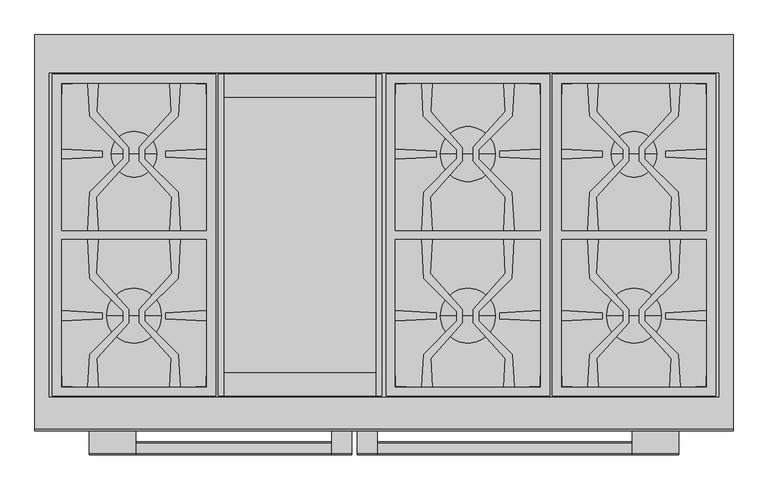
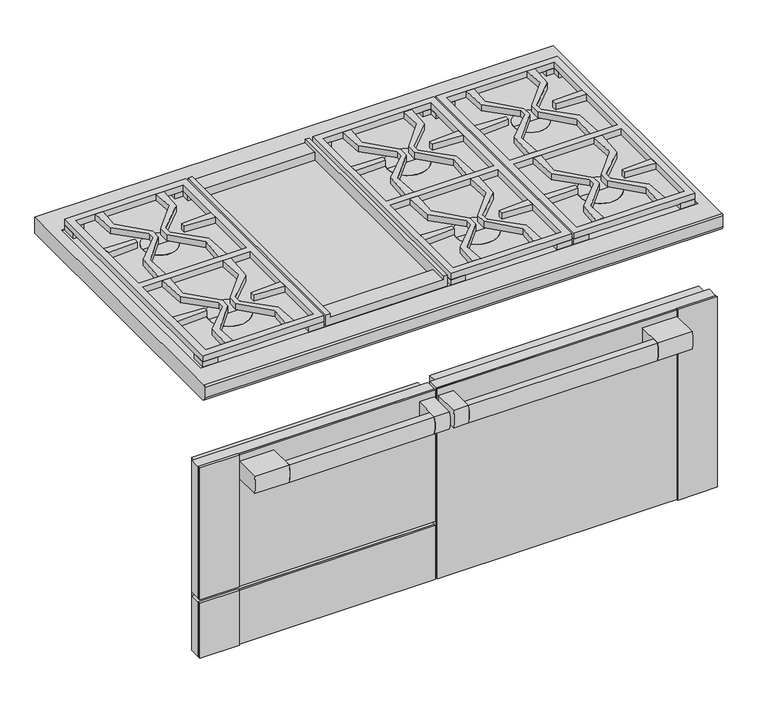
"""IFC4 building model written with IfcOpenShell, lengths in millimetres: proxy geometry, 11791690_USA_HR1955-3G_EDST-CLST : 25195581_USA_11791690_HR1955-3G_EDST-CLST."""

from ifc_helpers import new_model, si_unit, point, frame, frame_2d, origin, place, context, project, spatial, polyline, circle_curve, trimmed, segment, composite_curve, outline, extrude, faceted_brep, source, transform, mapped, element, save
from ifc_brep_helpers import plane_surface, cylinder_surface, advanced_brep


def specialty_equipment_83a5bb5f(model_context):
    return source(origin(), model_context, "Body", "SolidModel", [
        faceted_brep([(608.5, -664.7, 684.0), (608.5, -664.7, 210.0), (515.5, -664.7, 210.0), (515.5, -664.7, 211.0), (607.5, -664.7, 211.0), (607.5, -664.7, 683.0), (515.5, -664.7, 683.0), (515.5, -664.7, 684.0), (608.5, -670.0, 684.0), (515.5, -670.0, 684.0), (515.5, -670.0, 210.0), (608.5, -670.0, 210.0), (515.5, -668.7, 683.0), (515.5, -668.7, 211.0), (607.5, -668.7, 683.0), (607.5, -668.7, 211.0)], [[[0, 1, 2, 3, 4, 5, 6, 7]], [[8, 9, 10, 11]], [[1, 0, 8, 11]], [[2, 1, 11, 10]], [[10, 9, 7, 6, 12, 13, 3, 2]], [[0, 7, 9, 8]], [[14, 15, 13, 12]], [[15, 14, 5, 4]], [[13, 15, 4, 3]], [[14, 12, 6, 5]]]),
        extrude(outline(polyline([(-48.5, -664.7), (607.5, -664.7), (607.5, -668.7), (-48.5, -668.7), (-48.5, -664.7)])), frame((0.0, 0.0, 211.0), z_axis=(0.0, 0.0, 1.0), x_axis=(1.0, 0.0, 0.0)), (0.0, 0.0, 1.0), 472.0),
        faceted_brep([(-515.5, -664.7, 355.0), (-608.5, -664.7, 355.0), (-608.5, -664.7, 684.0), (-515.5, -664.7, 684.0), (-515.5, -664.7, 683.0), (-607.5, -664.7, 683.0), (-607.5, -664.7, 356.0), (-515.5, -664.7, 356.0), (-515.5, -670.0, 684.0), (-608.5, -670.0, 684.0), (-608.5, -670.0, 355.0), (-515.5, -670.0, 355.0), (-515.5, -668.7, 356.0), (-515.5, -668.7, 683.0), (-607.5, -668.7, 356.0), (-607.5, -668.7, 683.0)], [[[0, 1, 2, 3, 4, 5, 6, 7]], [[8, 9, 10, 11]], [[8, 11, 0, 7, 12, 13, 4, 3]], [[1, 0, 11, 10]], [[2, 1, 10, 9]], [[3, 2, 9, 8]], [[12, 14, 15, 13]], [[14, 12, 7, 6]], [[15, 14, 6, 5]], [[13, 15, 5, 4]]]),
        extrude(outline(polyline([(-607.5, -664.7), (-53.5, -664.7), (-53.5, -668.7), (-607.5, -668.7), (-607.5, -664.7)])), frame((0.0, 0.0, 356.0), z_axis=(0.0, 0.0, 1.0), x_axis=(1.0, 0.0, 0.0)), (0.0, 0.0, 1.0), 327.0),
        faceted_brep([(-515.5, -664.7, 210.0), (-608.5, -664.7, 210.0), (-608.5, -664.7, 347.0), (-515.5, -664.7, 347.0), (-515.5, -664.7, 346.0), (-607.5, -664.7, 346.0), (-607.5, -664.7, 211.0), (-515.5, -664.7, 211.0), (-515.5, -670.0, 347.0), (-608.5, -670.0, 347.0), (-608.5, -670.0, 210.0), (-515.5, -670.0, 210.0), (-515.5, -668.7, 211.0), (-515.5, -668.7, 346.0), (-607.5, -668.7, 211.0), (-607.5, -668.7, 346.0)], [[[0, 1, 2, 3, 4, 5, 6, 7]], [[8, 9, 10, 11]], [[8, 11, 0, 7, 12, 13, 4, 3]], [[1, 0, 11, 10]], [[2, 1, 10, 9]], [[3, 2, 9, 8]], [[12, 14, 15, 13]], [[14, 12, 7, 6]], [[15, 14, 6, 5]], [[13, 15, 5, 4]]]),
        extrude(outline(polyline([(-607.5, -664.7), (-53.5, -664.7), (-53.5, -668.7), (-607.5, -668.7), (-607.5, -664.7)])), frame((0.0, 0.0, 211.0), z_axis=(0.0, 0.0, 1.0), x_axis=(1.0, 0.0, 0.0)), (0.0, 0.0, 1.0), 135.0),
        extrude(outline(polyline([(-608.5, -638.0), (-53.5, -638.0), (-53.5, -664.7), (-608.5, -664.7), (-608.5, -638.0)])), frame((0.0, 0.0, 356.0), z_axis=(0.0, 0.0, 1.0), x_axis=(1.0, 0.0, 0.0)), (0.0, 0.0, 1.0), 327.0),
        extrude(outline(polyline([(-48.5, -638.0), (608.5, -638.0), (608.5, -664.7), (-48.5, -664.7), (-48.5, -638.0)])), frame((0.0, 0.0, 211.0), z_axis=(0.0, 0.0, 1.0), x_axis=(1.0, 0.0, 0.0)), (0.0, 0.0, 1.0), 472.0),
        extrude(outline(polyline([(-608.5, -638.0), (-53.5, -638.0), (-53.5, -664.7), (-608.5, -664.7), (-608.5, -638.0)])), frame((0.0, 0.0, 211.0), z_axis=(0.0, 0.0, 1.0), x_axis=(1.0, 0.0, 0.0)), (0.0, 0.0, 1.0), 135.0),
        extrude(outline(polyline([(-36.5, -617.0), (596.5, -617.0), (596.5, -638.0), (-36.5, -638.0), (-36.5, -617.0)])), frame((0.0, 0.0, 218.0), z_axis=(0.0, 0.0, 1.0), x_axis=(1.0, 0.0, 0.0)), (0.0, 0.0, 1.0), 464.0),
        extrude(outline(polyline([(-596.5, -617.0), (-65.5, -617.0), (-65.5, -638.0), (-596.5, -638.0), (-596.5, -617.0)])), frame((0.0, 0.0, 359.0), z_axis=(0.0, 0.0, 1.0), x_axis=(1.0, 0.0, 0.0)), (0.0, 0.0, 1.0), 315.0),
        extrude(outline(polyline([(-596.5, -617.0), (-65.5, -617.0), (-65.5, -638.0), (-596.5, -638.0), (-596.5, -617.0)])), frame((0.0, 0.0, 211.5), z_axis=(0.0, 0.0, 1.0), x_axis=(1.0, 0.0, 0.0)), (0.0, 0.0, 1.0), 134.0),
        extrude(outline(composite_curve([segment(polyline([(-668.7, 667.0), (-668.7, 624.0), (-731.0, 624.0)]), True, "CONTINUOUS"), segment(trimmed(circle_curve(frame_2d((-655.4583333, 645.5)), 78.5416667), [point((-731.0, 624.0))], [point((-731.0, 667.0))], False, "CARTESIAN"), True, "CONTINUOUS"), segment(polyline([(-731.0, 667.0), (-668.7, 667.0)]), True, "CONTINUOUS")], self_intersect=False)), frame((-514.5, 0.0, 0.0), z_axis=(1.0, 0.0, 0.0), x_axis=(0.0, 1.0, 0.0)), (0.0, 0.0, 1.0), 81.0),
        extrude(outline(composite_curve([segment(polyline([(-731.0, 667.0), (-668.7, 667.0), (-668.7, 624.0), (-731.0, 624.0)]), True, "CONTINUOUS"), segment(trimmed(circle_curve(frame_2d((-655.4583333, 645.5)), 78.5416667), [point((-731.0, 624.0))], [point((-731.0, 667.0))], False, "CARTESIAN"), True, "CONTINUOUS")], self_intersect=False)), frame((433.5, 0.0, 0.0), z_axis=(1.0, 0.0, 0.0), x_axis=(0.0, 1.0, 0.0)), (0.0, 0.0, 1.0), 81.0),
        extrude(outline(composite_curve([segment(polyline([(-731.0, 667.0), (-668.7, 667.0), (-668.7, 624.0), (-731.0, 624.0)]), True, "CONTINUOUS"), segment(trimmed(circle_curve(frame_2d((-655.4583333, 645.5)), 78.5416667), [point((-731.0, 624.0))], [point((-731.0, 667.0))], False, "CARTESIAN"), True, "CONTINUOUS")], self_intersect=False)), frame((-91.5, 0.0, 0.0), z_axis=(1.0, 0.0, 0.0), x_axis=(0.0, 1.0, 0.0)), (0.0, 0.0, 1.0), 35.0),
        extrude(outline(composite_curve([segment(polyline([(-731.0, 667.0), (-668.7, 667.0), (-668.7, 624.0), (-731.0, 624.0)]), True, "CONTINUOUS"), segment(trimmed(circle_curve(frame_2d((-655.4583333, 645.5)), 78.5416667), [point((-731.0, 624.0))], [point((-731.0, 667.0))], False, "CARTESIAN"), True, "CONTINUOUS")], self_intersect=False)), frame((-46.5, 0.0, 0.0), z_axis=(1.0, 0.0, 0.0), x_axis=(0.0, 1.0, 0.0)), (0.0, 0.0, 1.0), 35.0),
        extrude(outline(composite_curve([segment(trimmed(circle_curve(frame_2d((-655.4583333, 645.5)), 78.5416667), [point((-731.0, 624.0))], [point((-731.0, 667.0))], False, "CARTESIAN"), True, "CONTINUOUS"), segment(polyline([(-731.0, 667.0), (-714.0, 667.0)]), True, "CONTINUOUS"), segment(trimmed(circle_curve(frame_2d((-789.5416667, 645.5)), 78.5416667), [point((-714.0, 667.0))], [point((-714.0, 624.0))], False, "CARTESIAN"), True, "CONTINUOUS"), segment(polyline([(-714.0, 624.0), (-731.0, 624.0)]), True, "CONTINUOUS")], self_intersect=False)), frame((-433.5, 0.0, 0.0), z_axis=(1.0, 0.0, 0.0), x_axis=(0.0, 1.0, 0.0)), (0.0, 0.0, 1.0), 342.0),
        extrude(outline(composite_curve([segment(trimmed(circle_curve(frame_2d((-655.4583333, 645.5)), 78.5416667), [point((-731.0, 624.0))], [point((-731.0, 667.0))], False, "CARTESIAN"), True, "CONTINUOUS"), segment(polyline([(-731.0, 667.0), (-714.0, 667.0)]), True, "CONTINUOUS"), segment(trimmed(circle_curve(frame_2d((-789.5416667, 645.5)), 78.5416667), [point((-714.0, 667.0))], [point((-714.0, 624.0))], False, "CARTESIAN"), True, "CONTINUOUS"), segment(polyline([(-714.0, 624.0), (-731.0, 624.0)]), True, "CONTINUOUS")], self_intersect=False)), frame((-11.5, 0.0, 0.0), z_axis=(1.0, 0.0, 0.0), x_axis=(0.0, 1.0, 0.0)), (0.0, 0.0, 1.0), 445.0),
        advanced_brep(
        [(609.5, 0.0, 902.0), (609.5, -688.3499547, 902.0), (609.5, -692.0, 898.3499547), (609.5, -692.0, 872.0), (609.5, -682.0, 862.0), (609.5, 0.0, 862.0), (-609.5, 0.0, 902.0), (-609.5, 0.0, 862.0), (-609.5, -682.0, 862.0), (-609.5, -692.0, 872.0), (-609.5, -692.0, 898.3499547), (-609.5, -688.3499547, 902.0), (-584.5, -67.0, 902.0), (584.5, -67.0, 902.0), (584.5, -633.0, 902.0), (-584.5, -633.0, 902.0), (584.5, -67.0, 870.0), (-584.5, -67.0, 870.0), (-584.5, -633.0, 870.0), (584.5, -633.0, 870.0)],
        [
            (0, 1),
            (1, 2, circle_curve(frame((609.5, -688.0, 898.0), z_axis=(1.0, 0.0, 0.0), x_axis=(0.0, 0.0, 1.0)), 4.0152794)),
            (2, 3),
            (3, 4, circle_curve(frame((609.5, -682.0, 872.0), z_axis=(1.0, 0.0, 0.0), x_axis=(0.0, 0.0, 1.0)), 10.0)),
            (4, 5),
            (5, 0),
            (6, 7),
            (7, 8),
            (8, 9, circle_curve(frame((-609.5, -682.0, 872.0), z_axis=(-1.0, 0.0, 0.0), x_axis=(0.0, 0.0, 1.0)), 10.0)),
            (9, 10),
            (10, 11, circle_curve(frame((-609.5, -688.0, 898.0), z_axis=(-1.0, 0.0, 0.0), x_axis=(0.0, 0.0, 1.0)), 4.0152794)),
            (11, 6),
            (0, 6),
            (11, 1),
            (12, 13),
            (13, 14),
            (14, 15),
            (15, 12),
            (10, 2),
            (9, 3),
            (8, 4),
            (7, 5),
            (16, 17),
            (17, 18),
            (18, 19),
            (19, 16),
            (16, 13),
            (12, 17),
            (15, 18),
            (14, 19),
        ],
        [
            plane_surface(frame((609.5, -688.3499547, 902.0), z_axis=(1.0, 0.0, 0.0), x_axis=(0.0, -1.0, 0.0))),
            plane_surface(frame((-609.5, -688.3499547, 902.0), z_axis=(-1.0, 0.0, 0.0), x_axis=(0.0, 1.0, 0.0))),
            plane_surface(frame((609.5, 0.0, 902.0), z_axis=(0.0, 0.0, 1.0), x_axis=(-1.0, 0.0, 0.0))),
            cylinder_surface(frame((-609.5, -688.0, 898.0), z_axis=(1.0, 0.0, 0.0), x_axis=(0.0, 0.0, 1.0)), 4.0152794),
            plane_surface(frame((609.5, -692.0, 898.3499547), z_axis=(0.0, -1.0, 0.0), x_axis=(-1.0, 0.0, 0.0))),
            cylinder_surface(frame((-609.5, -682.0, 872.0), z_axis=(1.0, 0.0, 0.0), x_axis=(0.0, 0.0, 1.0)), 10.0),
            plane_surface(frame((609.5, -682.0, 862.0), z_axis=(0.0, 0.0, -1.0), x_axis=(-1.0, 0.0, 0.0))),
            plane_surface(frame((609.5, 0.0, 862.0), z_axis=(0.0, 1.0, 0.0), x_axis=(-1.0, 0.0, 0.0))),
            plane_surface(frame((-584.5, -67.0, 870.0), z_axis=(0.0, 0.0, 1.0), x_axis=(1.0, 0.0, 0.0))),
            plane_surface(frame((584.5, -67.0, 902.0), z_axis=(0.0, -1.0, 0.0), x_axis=(0.0, 0.0, -1.0))),
            plane_surface(frame((-584.5, -67.0, 902.0), z_axis=(1.0, 0.0, 0.0), x_axis=(0.0, 0.0, -1.0))),
            plane_surface(frame((-584.5, -633.0, 902.0), z_axis=(0.0, 1.0, 0.0), x_axis=(0.0, 0.0, -1.0))),
            plane_surface(frame((584.5, -633.0, 902.0), z_axis=(-1.0, 0.0, 0.0), x_axis=(0.0, 0.0, -1.0))),
        ],
        [
            (0, [[1, 2, 3, 4, 5, 6]]),
            (1, [[7, 8, 9, 10, 11, 12]]),
            (2, [[-1, 13, -12, 14], [15, 16, 17, 18]]),
            (3, [[-2, -14, -11, 19]]),
            (4, [[-3, -19, -10, 20]]),
            (5, [[-4, -20, -9, 21]]),
            (6, [[-5, -21, -8, 22]]),
            (7, [[-6, -22, -7, -13]]),
            (8, [[23, 24, 25, 26]]),
            (9, [[-23, 27, -15, 28]]),
            (10, [[-24, -28, -18, 29]]),
            (11, [[-25, -29, -17, 30]]),
            (12, [[-26, -30, -16, -27]]),
        ],
    ),
        advanced_brep(
        [(98.5, -491.0, 887.0), (194.5, -491.0, 887.0), (194.5, -491.0, 901.0), (98.5, -491.0, 901.0), (146.5, -491.0, 887.0), (146.5, -491.0, 901.0)],
        [
            (0, 1, circle_curve(frame((146.5, -491.0, 887.0), z_axis=(0.0, 0.0, 1.0), x_axis=(1.0, 0.0, 0.0)), 48.0)),
            (1, 2),
            (2, 3, circle_curve(frame((146.5, -491.0, 901.0), z_axis=(0.0, 0.0, -1.0), x_axis=(1.0, 0.0, 0.0)), 48.0)),
            (3, 0),
            (1, 0, circle_curve(frame((146.5, -491.0, 887.0), z_axis=(0.0, 0.0, 1.0), x_axis=(1.0, 0.0, 0.0)), 48.0)),
            (3, 2, circle_curve(frame((146.5, -491.0, 901.0), z_axis=(0.0, 0.0, -1.0), x_axis=(1.0, 0.0, 0.0)), 48.0)),
            (4, 1),
            (0, 4),
            (2, 5),
            (5, 3),
        ],
        [
            cylinder_surface(frame((146.5, -491.0, 2424.4), z_axis=(0.0, 0.0, -1.0), x_axis=(1.0, 0.0, 0.0)), 48.0),
            plane_surface(frame((146.5, -491.0, 887.0), z_axis=(0.0, 0.0, -1.0), x_axis=(1.0, 0.0, 0.0))),
            plane_surface(frame((146.5, -491.0, 901.0), z_axis=(0.0, 0.0, 1.0), x_axis=(1.0, 0.0, 0.0))),
        ],
        [
            (0, [[1, 2, 3, 4]]),
            (0, [[5, -4, 6, -2]]),
            (1, [[7, -1, 8]]),
            (1, [[-8, -5, -7]]),
            (2, [[-3, 9, 10]]),
            (2, [[-6, -10, -9]]),
        ],
    ),
        advanced_brep(
        [(98.5, -208.5, 887.0), (194.5, -208.5, 887.0), (194.5, -208.5, 901.0), (98.5, -208.5, 901.0), (146.5, -208.5, 887.0), (146.5, -208.5, 901.0)],
        [
            (0, 1, circle_curve(frame((146.5, -208.5, 887.0), z_axis=(0.0, 0.0, 1.0), x_axis=(1.0, 0.0, 0.0)), 48.0)),
            (1, 2),
            (2, 3, circle_curve(frame((146.5, -208.5, 901.0), z_axis=(0.0, 0.0, -1.0), x_axis=(1.0, 0.0, 0.0)), 48.0)),
            (3, 0),
            (1, 0, circle_curve(frame((146.5, -208.5, 887.0), z_axis=(0.0, 0.0, 1.0), x_axis=(1.0, 0.0, 0.0)), 48.0)),
            (3, 2, circle_curve(frame((146.5, -208.5, 901.0), z_axis=(0.0, 0.0, -1.0), x_axis=(1.0, 0.0, 0.0)), 48.0)),
            (4, 1),
            (0, 4),
            (2, 5),
            (5, 3),
        ],
        [
            cylinder_surface(frame((146.5, -208.5, 2338.4), z_axis=(0.0, 0.0, -1.0), x_axis=(1.0, 0.0, 0.0)), 48.0),
            plane_surface(frame((146.5, -208.5, 887.0), z_axis=(0.0, 0.0, -1.0), x_axis=(1.0, 0.0, 0.0))),
            plane_surface(frame((146.5, -208.5, 901.0), z_axis=(0.0, 0.0, 1.0), x_axis=(1.0, 0.0, 0.0))),
        ],
        [
            (0, [[1, 2, 3, 4]]),
            (0, [[5, -4, 6, -2]]),
            (1, [[7, -1, 8]]),
            (1, [[-8, -5, -7]]),
            (2, [[-3, 9, 10]]),
            (2, [[-6, -10, -9]]),
        ],
    ),
        extrude(outline(polyline([(289.0, -631.0), (254.0, -631.0), (254.0, -615.0), (273.0337834, -615.0), (273.0337834, -596.0), (289.0, -596.0), (289.0, -631.0)])), frame((0.0, 0.0, 887.0), z_axis=(0.0, 0.0, 1.0), x_axis=(1.0, 0.0, 0.0)), (0.0, 0.0, 1.0), 27.0),
        extrude(outline(polyline([(4.0, -631.0), (4.0, -596.0), (20.0337834, -596.0), (20.0337834, -615.0), (39.0, -615.0), (39.0, -631.0), (4.0, -631.0)])), frame((0.0, 0.0, 887.0), z_axis=(0.0, 0.0, 1.0), x_axis=(1.0, 0.0, 0.0)), (0.0, 0.0, 1.0), 27.0),
        extrude(outline(polyline([(289.0, -69.0), (289.0, -104.0), (273.0337834, -104.0), (273.0337834, -85.0), (254.0, -85.0), (254.0, -69.0), (289.0, -69.0)])), frame((0.0, 0.0, 887.0), z_axis=(0.0, 0.0, 1.0), x_axis=(1.0, 0.0, 0.0)), (0.0, 0.0, 1.0), 27.0),
        extrude(outline(polyline([(4.0, -69.0), (39.0, -69.0), (39.0, -85.0), (20.0337834, -85.0), (20.0337834, -104.0), (4.0, -104.0), (4.0, -69.0)])), frame((0.0, 0.0, 887.0), z_axis=(0.0, 0.0, 1.0), x_axis=(1.0, 0.0, 0.0)), (0.0, 0.0, 1.0), 27.0),
        extrude(outline(polyline([(579.0, -631.0), (544.0, -631.0), (544.0, -615.0), (563.0, -615.0), (563.0, -596.0), (579.0, -596.0), (579.0, -631.0)])), frame((0.0, 0.0, 887.0), z_axis=(0.0, 0.0, 1.0), x_axis=(1.0, 0.0, 0.0)), (0.0, 0.0, 1.0), 27.0),
        extrude(outline(polyline([(294.0, -631.0), (294.0, -596.0), (310.0125078, -596.0), (310.0125078, -615.0), (329.0, -615.0), (329.0, -631.0), (294.0, -631.0)])), frame((0.0, 0.0, 887.0), z_axis=(0.0, 0.0, 1.0), x_axis=(1.0, 0.0, 0.0)), (0.0, 0.0, 1.0), 27.0),
        extrude(outline(polyline([(579.0, -69.0), (579.0, -104.0), (562.9874922, -104.0), (562.9874922, -85.0), (544.0, -85.0), (544.0, -69.0), (579.0, -69.0)])), frame((0.0, 0.0, 887.0), z_axis=(0.0, 0.0, 1.0), x_axis=(1.0, 0.0, 0.0)), (0.0, 0.0, 1.0), 27.0),
        extrude(outline(polyline([(294.0, -69.0), (329.0, -69.0), (329.0, -85.0), (310.0125078, -85.0), (310.0125078, -104.0), (294.0, -104.0), (294.0, -69.0)])), frame((0.0, 0.0, 887.0), z_axis=(0.0, 0.0, 1.0), x_axis=(1.0, 0.0, 0.0)), (0.0, 0.0, 1.0), 27.0),
        advanced_brep(
        [(-476.5, -208.5, 887.0), (-396.5, -208.5, 887.0), (-396.5, -208.5, 901.0), (-476.5, -208.5, 901.0), (-436.5, -208.5, 887.0), (-436.5, -208.5, 901.0)],
        [
            (0, 1, circle_curve(frame((-436.5, -208.5, 887.0), z_axis=(0.0, 0.0, 1.0), x_axis=(1.0, 0.0, 0.0)), 40.0)),
            (1, 2),
            (2, 3, circle_curve(frame((-436.5, -208.5, 901.0), z_axis=(0.0, 0.0, -1.0), x_axis=(1.0, 0.0, 0.0)), 40.0)),
            (3, 0),
            (1, 0, circle_curve(frame((-436.5, -208.5, 887.0), z_axis=(0.0, 0.0, 1.0), x_axis=(1.0, 0.0, 0.0)), 40.0)),
            (3, 2, circle_curve(frame((-436.5, -208.5, 901.0), z_axis=(0.0, 0.0, -1.0), x_axis=(1.0, 0.0, 0.0)), 40.0)),
            (4, 1),
            (0, 4),
            (2, 5),
            (5, 3),
        ],
        [
            cylinder_surface(frame((-436.5, -208.5, 2424.4), z_axis=(0.0, 0.0, -1.0), x_axis=(1.0, 0.0, 0.0)), 40.0),
            plane_surface(frame((-436.5, -208.5, 887.0), z_axis=(0.0, 0.0, -1.0), x_axis=(1.0, 0.0, 0.0))),
            plane_surface(frame((-436.5, -208.5, 901.0), z_axis=(0.0, 0.0, 1.0), x_axis=(1.0, 0.0, 0.0))),
        ],
        [
            (0, [[1, 2, 3, 4]]),
            (0, [[5, -4, 6, -2]]),
            (1, [[7, -1, 8]]),
            (1, [[-8, -5, -7]]),
            (2, [[-3, 9, 10]]),
            (2, [[-6, -10, -9]]),
        ],
    ),
        advanced_brep(
        [(-484.5, -491.0, 887.0), (-388.5, -491.0, 887.0), (-388.5, -491.0, 901.0), (-484.5, -491.0, 901.0), (-436.5, -491.0, 887.0), (-436.5, -491.0, 901.0)],
        [
            (0, 1, circle_curve(frame((-436.5, -491.0, 887.0), z_axis=(0.0, 0.0, 1.0), x_axis=(1.0, 0.0, 0.0)), 48.0)),
            (1, 2),
            (2, 3, circle_curve(frame((-436.5, -491.0, 901.0), z_axis=(0.0, 0.0, -1.0), x_axis=(1.0, 0.0, 0.0)), 48.0)),
            (3, 0),
            (1, 0, circle_curve(frame((-436.5, -491.0, 887.0), z_axis=(0.0, 0.0, 1.0), x_axis=(1.0, 0.0, 0.0)), 48.0)),
            (3, 2, circle_curve(frame((-436.5, -491.0, 901.0), z_axis=(0.0, 0.0, -1.0), x_axis=(1.0, 0.0, 0.0)), 48.0)),
            (4, 1),
            (0, 4),
            (2, 5),
            (5, 3),
        ],
        [
            cylinder_surface(frame((-436.5, -491.0, 2424.4), z_axis=(0.0, 0.0, -1.0), x_axis=(1.0, 0.0, 0.0)), 48.0),
            plane_surface(frame((-436.5, -491.0, 887.0), z_axis=(0.0, 0.0, -1.0), x_axis=(1.0, 0.0, 0.0))),
            plane_surface(frame((-436.5, -491.0, 901.0), z_axis=(0.0, 0.0, 1.0), x_axis=(1.0, 0.0, 0.0))),
        ],
        [
            (0, [[1, 2, 3, 4]]),
            (0, [[5, -4, 6, -2]]),
            (1, [[7, -1, 8]]),
            (1, [[-8, -5, -7]]),
            (2, [[-3, 9, 10]]),
            (2, [[-6, -10, -9]]),
        ],
    ),
        advanced_brep(
        [(388.5, -491.0, 887.0), (484.5, -491.0, 887.0), (484.5, -491.0, 901.0), (388.5, -491.0, 901.0), (436.5, -491.0, 887.0), (436.5, -491.0, 901.0)],
        [
            (0, 1, circle_curve(frame((436.5, -491.0, 887.0), z_axis=(0.0, 0.0, 1.0), x_axis=(1.0, 0.0, 0.0)), 48.0)),
            (1, 2),
            (2, 3, circle_curve(frame((436.5, -491.0, 901.0), z_axis=(0.0, 0.0, -1.0), x_axis=(1.0, 0.0, 0.0)), 48.0)),
            (3, 0),
            (1, 0, circle_curve(frame((436.5, -491.0, 887.0), z_axis=(0.0, 0.0, 1.0), x_axis=(1.0, 0.0, 0.0)), 48.0)),
            (3, 2, circle_curve(frame((436.5, -491.0, 901.0), z_axis=(0.0, 0.0, -1.0), x_axis=(1.0, 0.0, 0.0)), 48.0)),
            (4, 1),
            (0, 4),
            (2, 5),
            (5, 3),
        ],
        [
            cylinder_surface(frame((436.5, -491.0, 2424.4), z_axis=(0.0, 0.0, -1.0), x_axis=(1.0, 0.0, 0.0)), 48.0),
            plane_surface(frame((436.5, -491.0, 887.0), z_axis=(0.0, 0.0, -1.0), x_axis=(1.0, 0.0, 0.0))),
            plane_surface(frame((436.5, -491.0, 901.0), z_axis=(0.0, 0.0, 1.0), x_axis=(1.0, 0.0, 0.0))),
        ],
        [
            (0, [[1, 2, 3, 4]]),
            (0, [[5, -4, 6, -2]]),
            (1, [[7, -1, 8]]),
            (1, [[-8, -5, -7]]),
            (2, [[-3, 9, 10]]),
            (2, [[-6, -10, -9]]),
        ],
    ),
        extrude(outline(polyline([(-294.0, -69.0), (-294.0, -631.0), (-579.0, -631.0), (-579.0, -69.0), (-294.0, -69.0)]), holes=[polyline([(-310.0, -85.0), (-563.0, -85.0), (-563.0, -342.0), (-310.0, -342.0), (-310.0, -85.0)]), polyline([(-563.0, -358.0), (-563.0, -615.0), (-310.0, -615.0), (-310.0, -358.0), (-563.0, -358.0)])]), frame((0.0, 0.0, 914.0), z_axis=(0.0, 0.0, 1.0), x_axis=(1.0, 0.0, 0.0)), (0.0, 0.0, 1.0), 15.0),
        extrude(outline(polyline([(579.0, -69.0), (579.0, -631.0), (294.0, -631.0), (294.0, -69.0), (579.0, -69.0)]), holes=[polyline([(563.0, -85.0), (310.0, -85.0), (310.0, -342.0), (563.0, -342.0), (563.0, -85.0)]), polyline([(310.0, -358.0), (310.0, -615.0), (563.0, -615.0), (563.0, -358.0), (310.0, -358.0)])]), frame((0.0, 0.0, 914.0), z_axis=(0.0, 0.0, 1.0), x_axis=(1.0, 0.0, 0.0)), (0.0, 0.0, 1.0), 15.0),
        extrude(outline(polyline([(289.0, -69.0), (289.0, -631.0), (4.0, -631.0), (4.0, -69.0), (289.0, -69.0)]), holes=[polyline([(273.0337834, -85.0), (20.0337834, -85.0), (20.0337834, -342.0), (273.0337834, -342.0), (273.0337834, -85.0)]), polyline([(20.0337834, -358.0), (20.0337834, -615.0), (273.0337834, -615.0), (273.0337834, -358.0), (20.0337834, -358.0)])]), frame((0.0, 0.0, 914.0), z_axis=(0.0, 0.0, 1.0), x_axis=(1.0, 0.0, 0.0)), (0.0, 0.0, 1.0), 15.0),
        advanced_brep(
        [(396.5, -208.5, 887.0), (476.5, -208.5, 887.0), (476.5, -208.5, 901.0), (396.5, -208.5, 901.0), (436.5, -208.5, 887.0), (436.5, -208.5, 901.0)],
        [
            (0, 1, circle_curve(frame((436.5, -208.5, 887.0), z_axis=(0.0, 0.0, 1.0), x_axis=(1.0, 0.0, 0.0)), 40.0)),
            (1, 2),
            (2, 3, circle_curve(frame((436.5, -208.5, 901.0), z_axis=(0.0, 0.0, -1.0), x_axis=(1.0, 0.0, 0.0)), 40.0)),
            (3, 0),
            (1, 0, circle_curve(frame((436.5, -208.5, 887.0), z_axis=(0.0, 0.0, 1.0), x_axis=(1.0, 0.0, 0.0)), 40.0)),
            (3, 2, circle_curve(frame((436.5, -208.5, 901.0), z_axis=(0.0, 0.0, -1.0), x_axis=(1.0, 0.0, 0.0)), 40.0)),
            (4, 1),
            (0, 4),
            (2, 5),
            (5, 3),
        ],
        [
            cylinder_surface(frame((436.5, -208.5, 2424.4), z_axis=(0.0, 0.0, -1.0), x_axis=(1.0, 0.0, 0.0)), 40.0),
            plane_surface(frame((436.5, -208.5, 887.0), z_axis=(0.0, 0.0, -1.0), x_axis=(1.0, 0.0, 0.0))),
            plane_surface(frame((436.5, -208.5, 901.0), z_axis=(0.0, 0.0, 1.0), x_axis=(1.0, 0.0, 0.0))),
        ],
        [
            (0, [[1, 2, 3, 4]]),
            (0, [[5, -4, 6, -2]]),
            (1, [[7, -1, 8]]),
            (1, [[-8, -5, -7]]),
            (2, [[-3, 9, 10]]),
            (2, [[-6, -10, -9]]),
        ],
    ),
        extrude(outline(polyline([(20.0337834, -217.4810574), (20.0337834, -199.5189426), (91.0337834, -203.2078739), (91.0337834, -213.7921261), (20.0337834, -217.4810574)])), frame((0.0, 0.0, 914.0), z_axis=(0.0, 0.0, 1.0), x_axis=(1.0, 0.0, 0.0)), (0.0, 0.0, 1.0), 15.0),
        extrude(outline(polyline([(273.0337834, -199.5262039), (273.0337834, -217.4737961), (202.0337834, -213.7790477), (202.0337834, -203.2209523), (273.0337834, -199.5262039)])), frame((0.0, 0.0, 914.0), z_axis=(0.0, 0.0, 1.0), x_axis=(1.0, 0.0, 0.0)), (0.0, 0.0, 1.0), 15.0),
        extrude(outline(polyline([(-294.0, -631.0), (-329.0, -631.0), (-329.0, -615.0), (-310.0, -615.0), (-310.0, -596.0), (-294.0, -596.0), (-294.0, -631.0)])), frame((0.0, 0.0, 887.0), z_axis=(0.0, 0.0, 1.0), x_axis=(1.0, 0.0, 0.0)), (0.0, 0.0, 1.0), 27.0),
        extrude(outline(polyline([(-579.0, -631.0), (-579.0, -596.0), (-563.0, -596.0), (-563.0, -615.0), (-544.0, -615.0), (-544.0, -631.0), (-579.0, -631.0)])), frame((0.0, 0.0, 887.0), z_axis=(0.0, 0.0, 1.0), x_axis=(1.0, 0.0, 0.0)), (0.0, 0.0, 1.0), 27.0),
        extrude(outline(polyline([(-294.0, -69.0), (-294.0, -104.0), (-310.0, -104.0), (-310.0, -85.0), (-329.0, -85.0), (-329.0, -69.0), (-294.0, -69.0)])), frame((0.0, 0.0, 887.0), z_axis=(0.0, 0.0, 1.0), x_axis=(1.0, 0.0, 0.0)), (0.0, 0.0, 1.0), 27.0),
        extrude(outline(polyline([(-579.0, -69.0), (-544.0, -69.0), (-544.0, -85.0), (-563.0, -85.0), (-563.0, -104.0), (-579.0, -104.0), (-579.0, -69.0)])), frame((0.0, 0.0, 887.0), z_axis=(0.0, 0.0, 1.0), x_axis=(1.0, 0.0, 0.0)), (0.0, 0.0, 1.0), 27.0),
        extrude(outline(polyline([(-517.0385862, -85.0), (-499.0385862, -85.0), (-501.6338026, -134.5196799), (-446.0, -196.6082182), (-446.0, -220.3917818), (-502.1289218, -283.0328838), (-499.0385862, -342.0), (-517.0385862, -342.0), (-513.5028157, -274.5334805), (-455.6108918, -216.6415566), (-455.6108918, -200.3584434), (-514.0558783, -141.9134569), (-517.0385862, -85.0)])), frame((0.0, 0.0, 914.0), z_axis=(0.0, 0.0, 1.0), x_axis=(1.0, 0.0, 0.0)), (0.0, 0.0, 1.0), 15.0),
        extrude(outline(polyline([(-356.0, -85.0), (-358.9827079, -141.9134569), (-417.3891082, -200.3198573), (-417.3891082, -216.6801428), (-359.5357705, -274.5334805), (-356.0, -342.0), (-374.0, -342.0), (-370.9096644, -283.0328839), (-427.0, -220.4348449), (-427.0, -196.5651551), (-371.4047835, -134.5196799), (-374.0, -85.0), (-356.0, -85.0)])), frame((0.0, 0.0, 914.0), z_axis=(0.0, 0.0, 1.0), x_axis=(1.0, 0.0, 0.0)), (0.0, 0.0, 1.0), 15.0),
        extrude(outline(polyline([(310.0, -217.4810574), (310.0, -199.5189426), (381.0, -203.2078739), (381.0, -213.7921261), (310.0, -217.4810574)])), frame((0.0, 0.0, 914.0), z_axis=(0.0, 0.0, 1.0), x_axis=(1.0, 0.0, 0.0)), (0.0, 0.0, 1.0), 15.0),
        extrude(outline(polyline([(563.0, -199.5262039), (563.0, -217.4737961), (492.0, -213.7790477), (492.0, -203.2209523), (563.0, -199.5262039)])), frame((0.0, 0.0, 914.0), z_axis=(0.0, 0.0, 1.0), x_axis=(1.0, 0.0, 0.0)), (0.0, 0.0, 1.0), 15.0),
        extrude(outline(polyline([(310.0, -499.9810574), (310.0, -482.0189426), (381.0, -485.7078739), (381.0, -496.2921261), (310.0, -499.9810574)])), frame((0.0, 0.0, 914.0), z_axis=(0.0, 0.0, 1.0), x_axis=(1.0, 0.0, 0.0)), (0.0, 0.0, 1.0), 15.0),
        extrude(outline(polyline([(563.0, -482.0262039), (563.0, -499.9737961), (492.0, -496.2790477), (492.0, -485.7209523), (563.0, -482.0262039)])), frame((0.0, 0.0, 914.0), z_axis=(0.0, 0.0, 1.0), x_axis=(1.0, 0.0, 0.0)), (0.0, 0.0, 1.0), 15.0),
        extrude(outline(polyline([(20.0337834, -499.9810574), (20.0337834, -482.0189426), (91.0337834, -485.7078739), (91.0337834, -496.2921261), (20.0337834, -499.9810574)])), frame((0.0, 0.0, 914.0), z_axis=(0.0, 0.0, 1.0), x_axis=(1.0, 0.0, 0.0)), (0.0, 0.0, 1.0), 15.0),
        extrude(outline(polyline([(273.0337834, -482.0262039), (273.0337834, -499.9737961), (202.0337834, -496.2790477), (202.0337834, -485.7209523), (273.0337834, -482.0262039)])), frame((0.0, 0.0, 914.0), z_axis=(0.0, 0.0, 1.0), x_axis=(1.0, 0.0, 0.0)), (0.0, 0.0, 1.0), 15.0),
        extrude(outline(polyline([(-563.0, -499.9810574), (-563.0, -482.0189426), (-492.0, -485.7078739), (-492.0, -496.2921261), (-563.0, -499.9810574)])), frame((0.0, 0.0, 914.0), z_axis=(0.0, 0.0, 1.0), x_axis=(1.0, 0.0, 0.0)), (0.0, 0.0, 1.0), 15.0),
        extrude(outline(polyline([(-310.0, -482.0262039), (-310.0, -499.9737961), (-381.0, -496.2790477), (-381.0, -485.7209523), (-310.0, -482.0262039)])), frame((0.0, 0.0, 914.0), z_axis=(0.0, 0.0, 1.0), x_axis=(1.0, 0.0, 0.0)), (0.0, 0.0, 1.0), 15.0),
        extrude(outline(polyline([(-563.0, -217.4810574), (-563.0, -199.5189426), (-492.0, -203.2078739), (-492.0, -213.7921261), (-563.0, -217.4810574)])), frame((0.0, 0.0, 914.0), z_axis=(0.0, 0.0, 1.0), x_axis=(1.0, 0.0, 0.0)), (0.0, 0.0, 1.0), 15.0),
        extrude(outline(polyline([(-310.0, -199.5262039), (-310.0, -217.4737961), (-381.0, -213.7790477), (-381.0, -203.2209523), (-310.0, -199.5262039)])), frame((0.0, 0.0, 914.0), z_axis=(0.0, 0.0, 1.0), x_axis=(1.0, 0.0, 0.0)), (0.0, 0.0, 1.0), 15.0),
        extrude(outline(polyline([(289.0, -69.0), (289.0, -631.0), (4.0, -631.0), (4.0, -69.0), (289.0, -69.0)])), frame((0.0, 0.0, 870.0), z_axis=(0.0, 0.0, 1.0), x_axis=(1.0, 0.0, 0.0)), (0.0, 0.0, 1.0), 17.0),
        extrude(outline(polyline([(-294.0, -67.0), (-294.0, -633.0), (-579.0, -633.0), (-579.0, -67.0), (-294.0, -67.0)])), frame((0.0, 0.0, 870.0), z_axis=(0.0, 0.0, 1.0), x_axis=(1.0, 0.0, 0.0)), (0.0, 0.0, 1.0), 17.0),
        extrude(outline(polyline([(579.0, -67.0), (579.0, -633.0), (294.0, -633.0), (294.0, -67.0), (579.0, -67.0)])), frame((0.0, 0.0, 870.0), z_axis=(0.0, 0.0, 1.0), x_axis=(1.0, 0.0, 0.0)), (0.0, 0.0, 1.0), 17.0),
        extrude(outline(polyline([(83.9614138, -85.0), (81.3661974, -134.5196799), (137.0, -196.6082182), (137.0, -220.3917818), (80.8710782, -283.0328838), (83.9614138, -342.0), (65.9614138, -342.0), (69.4971843, -274.5334805), (127.3891082, -216.6415566), (127.3891082, -200.3584434), (68.9441217, -141.9134569), (65.9614138, -85.0), (83.9614138, -85.0)])), frame((0.0, 0.0, 914.0), z_axis=(0.0, 0.0, 1.0), x_axis=(1.0, 0.0, 0.0)), (0.0, 0.0, 1.0), 15.0),
        extrude(outline(polyline([(211.5952165, -134.5196799), (209.0, -85.0), (227.0, -85.0), (224.0172921, -141.9134569), (165.6108918, -200.3198573), (165.6108918, -216.6801428), (223.4642295, -274.5334805), (227.0, -342.0), (209.0, -342.0), (212.0903356, -283.0328839), (156.0, -220.4348449), (156.0, -196.5651551), (211.5952165, -134.5196799)])), frame((0.0, 0.0, 914.0), z_axis=(0.0, 0.0, 1.0), x_axis=(1.0, 0.0, 0.0)), (0.0, 0.0, 1.0), 15.0),
        extrude(outline(polyline([(355.9614138, -85.0), (373.9614138, -85.0), (371.3661974, -134.5196799), (427.0, -196.6082182), (427.0, -220.3917818), (370.8710782, -283.0328838), (373.9614138, -342.0), (355.9614138, -342.0), (359.4971843, -274.5334805), (417.3891082, -216.6415566), (417.3891082, -200.3584434), (358.9441217, -141.9134569), (355.9614138, -85.0)])), frame((0.0, 0.0, 914.0), z_axis=(0.0, 0.0, 1.0), x_axis=(1.0, 0.0, 0.0)), (0.0, 0.0, 1.0), 15.0),
        extrude(outline(polyline([(499.0, -85.0), (517.0, -85.0), (514.0172921, -141.9134569), (455.6108918, -200.3198573), (455.6108918, -216.6801428), (513.4642295, -274.5334805), (517.0, -342.0), (499.0, -342.0), (502.0903356, -283.0328839), (446.0, -220.4348449), (446.0, -196.5651551), (501.5952165, -134.5196799), (499.0, -85.0)])), frame((0.0, 0.0, 914.0), z_axis=(0.0, 0.0, 1.0), x_axis=(1.0, 0.0, 0.0)), (0.0, 0.0, 1.0), 15.0),
        extrude(outline(polyline([(-358.9561608, -558.1021355), (-355.9537513, -615.0212482), (-373.958529, -615.0212482), (-371.3779352, -565.4581775), (-427.0409298, -503.3795395), (-427.0409298, -479.6049953), (-370.9333083, -416.9448139), (-374.0411265, -358.0273828), (-356.0465434, -358.0273828), (-359.5565254, -425.4403498), (-417.4287769, -483.3126013), (-417.4287769, -499.6295194), (-358.9561608, -558.1021355)])), frame((0.0, 0.0, 914.0), z_axis=(0.0, 0.0, 1.0), x_axis=(1.0, 0.0, 0.0)), (0.0, 0.0, 1.0), 15.0),
        extrude(outline(polyline([(-501.6069467, -565.5024535), (-498.9948945, -615.0212482), (-516.9945748, -615.0212482), (-514.0293542, -558.0710081), (-455.6505447, -499.6921986), (-455.6505447, -483.3657133), (-513.5235617, -425.4926963), (-517.0822696, -358.0273828), (-499.0825893, -358.0273828), (-502.1525581, -416.9894265), (-446.0409434, -479.568392), (-446.0409434, -503.4471434), (-501.6069467, -565.5024535)])), frame((0.0, 0.0, 914.0), z_axis=(0.0, 0.0, 1.0), x_axis=(1.0, 0.0, 0.0)), (0.0, 0.0, 1.0), 15.0),
        extrude(outline(polyline([(65.9177304, -358.0273828), (83.9174107, -358.0273828), (80.8474419, -416.9894265), (136.9590566, -479.568392), (136.9590566, -503.4471434), (81.3930533, -565.5024535), (84.0051055, -615.0212482), (66.0054252, -615.0212482), (68.9706458, -558.0710081), (127.3494553, -499.6921986), (127.3494553, -483.3657133), (69.4764383, -425.4926963), (65.9177304, -358.0273828)])), frame((0.0, 0.0, 914.0), z_axis=(0.0, 0.0, 1.0), x_axis=(1.0, 0.0, 0.0)), (0.0, 0.0, 1.0), 15.0),
        extrude(outline(polyline([(212.0666917, -416.9448139), (208.9588735, -358.0273828), (226.9534566, -358.0273828), (223.4434746, -425.4403498), (165.5712231, -483.3126013), (165.5712231, -499.6295194), (224.0438392, -558.1021355), (227.0462487, -615.0212482), (209.041471, -615.0212482), (211.6220648, -565.4581775), (155.9590702, -503.3795395), (155.9590702, -479.6049953), (212.0666917, -416.9448139)])), frame((0.0, 0.0, 914.0), z_axis=(0.0, 0.0, 1.0), x_axis=(1.0, 0.0, 0.0)), (0.0, 0.0, 1.0), 15.0),
        extrude(outline(polyline([(355.9177304, -358.0273828), (373.9174107, -358.0273828), (370.8474419, -416.9894265), (426.9590566, -479.568392), (426.9590566, -503.4471434), (371.3930533, -565.5024535), (374.0051055, -615.0212482), (356.0054252, -615.0212482), (358.9706458, -558.0710081), (417.3494553, -499.6921986), (417.3494553, -483.3657133), (359.4764383, -425.4926963), (355.9177304, -358.0273828)])), frame((0.0, 0.0, 914.0), z_axis=(0.0, 0.0, 1.0), x_axis=(1.0, 0.0, 0.0)), (0.0, 0.0, 1.0), 15.0),
        extrude(outline(polyline([(502.0666917, -416.9448139), (498.9588735, -358.0273828), (516.9534566, -358.0273828), (513.4434746, -425.4403498), (455.5712231, -483.3126013), (455.5712231, -499.6295194), (514.0438392, -558.1021355), (517.0462487, -615.0212482), (499.041471, -615.0212482), (501.6220648, -565.4581775), (445.9590702, -503.3795395), (445.9590702, -479.6049953), (502.0666917, -416.9448139)])), frame((0.0, 0.0, 914.0), z_axis=(0.0, 0.0, 1.0), x_axis=(1.0, 0.0, 0.0)), (0.0, 0.0, 1.0), 15.0),
        extrude(outline(polyline([(584.5, -67.0), (584.5, -633.0), (-584.5, -633.0), (-584.5, -67.0), (584.5, -67.0)])), frame((0.0, 0.0, 870.0), z_axis=(0.0, 0.0, 1.0), x_axis=(1.0, 0.0, 0.0)), (0.0, 0.0, 1.0), 31.0),
        faceted_brep([(-289.0, -69.0, 929.0), (-289.0, -631.0, 929.0), (-279.5, -631.0, 929.0), (-279.5, -69.0, 929.0), (-4.0, -631.0, 929.0), (-4.0, -69.0, 929.0), (-13.5, -69.0, 929.0), (-13.5, -631.0, 929.0), (-4.0, -69.0, 891.0), (-4.0, -631.0, 891.0), (-289.0, -631.0, 891.0), (-289.0, -69.0, 891.0), (-13.5, -356.6944574, 891.0), (-13.5, -109.0, 891.0), (-279.5, -109.0, 891.0), (-279.5, -356.6944574, 891.0), (-279.5, -591.0, 891.0), (-13.5, -591.0, 891.0), (-279.5, -69.0, 921.0), (-13.5, -69.0, 921.0), (-13.5, -631.0, 921.0), (-279.5, -631.0, 921.0), (-13.5, -591.0, 921.0), (-13.5, -109.0, 921.0), (-279.5, -591.0, 921.0), (-279.5, -109.0, 921.0)], [[[0, 1, 2, 3]], [[4, 5, 6, 7]], [[8, 9, 10, 11], [12, 13, 14, 15, 16, 17]], [[8, 11, 0, 3, 18, 19, 6, 5]], [[1, 0, 11, 10]], [[10, 9, 4, 7, 20, 21, 2, 1]], [[5, 4, 9, 8]], [[22, 20, 7, 6, 19, 23, 13, 12, 17]], [[24, 16, 15, 14, 25, 18, 3, 2, 21]], [[22, 17, 16, 24]], [[13, 23, 25, 14]], [[23, 19, 18, 25]], [[20, 22, 24, 21]]]),
    ])


if __name__ == "__main__":
    model = new_model("IFC4")
    model_context = context("Model", 3, world=origin())
    ifc_project = project(units=[si_unit("LENGTHUNIT", "METRE", prefix="MILLI")], contexts=[model_context])
    site = spatial("IfcSite", under=ifc_project)
    building = spatial("IfcBuilding", under=site)
    placement = place(None, origin())
    specialty_equipment_shape = specialty_equipment_83a5bb5f(model_context)
    element("IfcBuildingElementProxy", 1, Name="11791690_USA_HR1955-3G_EDST-CLST : 25195581_USA_11791690_HR1955-3G_EDST-CLST", ObjectType="11791690_USA_HR1955-3G_EDST-CLST : 25195581_USA_11791690_HR1955-3G_EDST-CLST", at=placement, inside=building, context=model_context, shape_type="MappedRepresentation", body=[
        mapped(specialty_equipment_shape, transform((0.0, 0.0, 0.0), x_axis=(1.0, 0.0, 0.0), y_axis=(0.0, 1.0, 0.0), z_axis=(0.0, 0.0, 1.0))),
    ])
    save(model, "model.ifc")
